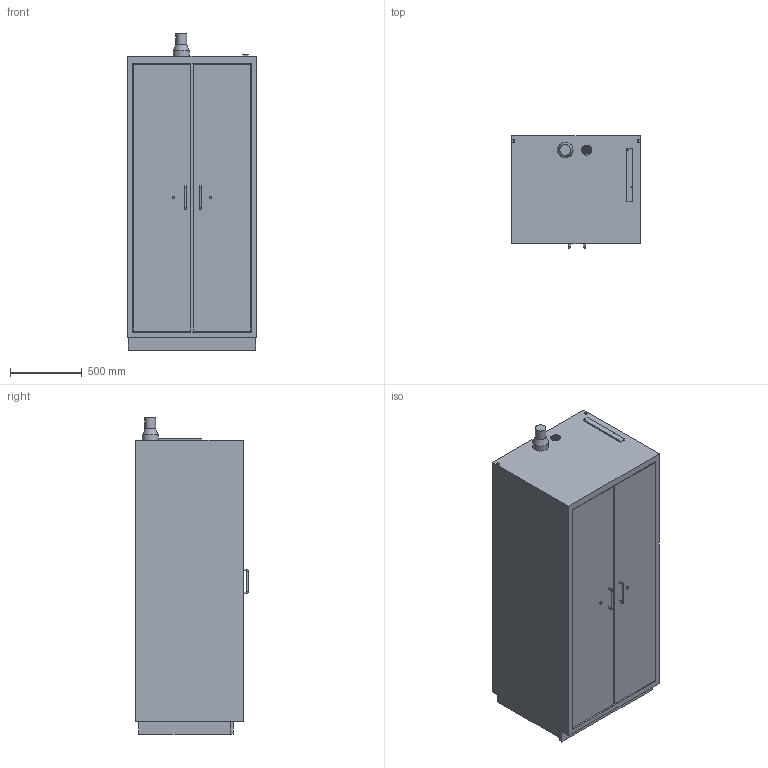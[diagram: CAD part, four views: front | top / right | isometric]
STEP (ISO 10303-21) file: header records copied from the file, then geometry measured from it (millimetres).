
FILE_DESCRIPTION(/* description */ ('Unknown'),/* implementation_level */ '2;1');
FILE_NAME(/* name */ 'Sicherheitsschrank Typ 90_D00100016',/* time_stamp */ '2019-04-10T11:26:08+02:00',/* author */ ('Unknown'),/* organization */ ('Unknown'),/* preprocessor_version */ 'ST-DEVELOPER v16.7',/* originating_system */ 'DEX',/* authorisation */ $);
FILE_SCHEMA (('AUTOMOTIVE_DESIGN {1 0 10303 214 3 1 1}'));
Length unit declared in the file: millimetre
Products named in the file (1): Sicherheitsschrank Typ 90_D00100016
Bounding box: 894 x 782 x 2203 mm (x, y, z)
Volume: 1307434778.3 mm3; surface area: 9209839.3 mm2
Topology: 1 solids, 1 shells, 118 faces, 281 edges, 186 vertices
Faces by surface type: plane 85, cylinder 28, torus 4, cone 1
Full cylindrical faces by diameter (mm): 6.2 x2, 7.5 x2, 12 x6, 18 x2, 75 x1, 109.5 x1
Entity records: 4109 total; most frequent: CARTESIAN_POINT 557, DIRECTION 552, ORIENTED_EDGE 514, EDGE_CURVE 257, LINE 200, VECTOR 200, VERTEX_POINT 181, AXIS2_PLACEMENT_3D 176
